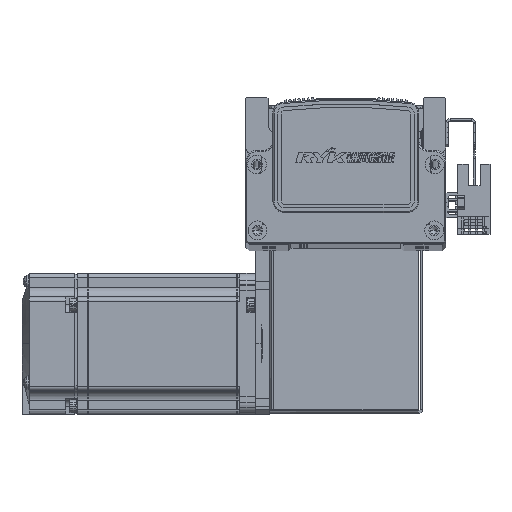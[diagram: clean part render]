
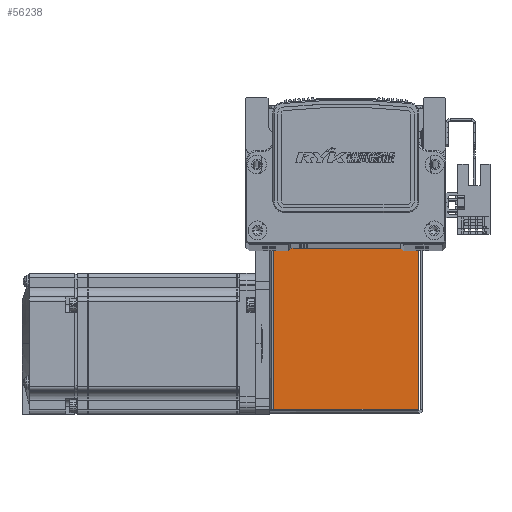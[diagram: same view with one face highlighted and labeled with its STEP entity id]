
A CAD part, top view. The second image highlights one B-rep face of the part: STEP entity #56238.
In plain terms, the highlighted planar face has unit normal (0, 0, 1) as drawn and (0, 0, -1) by its records, which use the part's own axes.
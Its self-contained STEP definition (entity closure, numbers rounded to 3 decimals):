
#3145 = VECTOR ( 'NONE', #59874, 1000. ) ;
#3159 = LINE ( 'NONE', #59873, #3145 ) ;
#8568 = VERTEX_POINT ( 'NONE', #72304 ) ;
#8632 = VERTEX_POINT ( 'NONE', #72424 ) ;
#8651 = VERTEX_POINT ( 'NONE', #72376 ) ;
#8657 = VERTEX_POINT ( 'NONE', #72369 ) ;
#10355 = EDGE_CURVE ( 'NONE', #8632, #8568, #3159, .T. ) ;
#10430 = EDGE_CURVE ( 'NONE', #8651, #8657, #56568, .T. ) ;
#10431 = EDGE_CURVE ( 'NONE', #8651, #8632, #56564, .T. ) ;
#10440 = EDGE_CURVE ( 'NONE', #8568, #8657, #56518, .T. ) ;
#14058 = EDGE_LOOP ( 'NONE', ( #20118, #20127, #20115, #20096 ) ) ;
#20096 = ORIENTED_EDGE ( 'NONE', *, *, #10355, .T. ) ;
#20115 = ORIENTED_EDGE ( 'NONE', *, *, #10431, .T. ) ;
#20118 = ORIENTED_EDGE ( 'NONE', *, *, #10440, .T. ) ;
#20127 = ORIENTED_EDGE ( 'NONE', *, *, #10430, .F. ) ;
#38125 = DIRECTION ( 'NONE',  ( 0., 0., 1. ) ) ;
#38136 = CARTESIAN_POINT ( 'NONE',  ( 0., 0., -35. ) ) ;
#38141 = DIRECTION ( 'NONE',  ( 0., -1., 0. ) ) ;
#38150 = PLANE ( 'NONE',  #68751 ) ;
#52552 = FACE_OUTER_BOUND ( 'NONE', #14058, .T. ) ;
#56238 = ADVANCED_FACE ( 'NONE', ( #52552 ), #38150, .F. ) ;
#56511 = VECTOR ( 'NONE', #63246, 1000. ) ;
#56518 = LINE ( 'NONE', #63197, #56580 ) ;
#56564 = LINE ( 'NONE', #63139, #56511 ) ;
#56568 = LINE ( 'NONE', #63200, #56582 ) ;
#56580 = VECTOR ( 'NONE', #63165, 1000. ) ;
#56582 = VECTOR ( 'NONE', #63213, 1000. ) ;
#59873 = CARTESIAN_POINT ( 'NONE',  ( 0., 72.5, -35. ) ) ;
#59874 = DIRECTION ( 'NONE',  ( 1., 0., 0. ) ) ;
#63139 = CARTESIAN_POINT ( 'NONE',  ( -30.793, 0., -35. ) ) ;
#63165 = DIRECTION ( 'NONE',  ( 0., -1., 0. ) ) ;
#63197 = CARTESIAN_POINT ( 'NONE',  ( 30.763, 72.5, -35. ) ) ;
#63200 = CARTESIAN_POINT ( 'NONE',  ( 32.5, 0.737, -35. ) ) ;
#63213 = DIRECTION ( 'NONE',  ( 1., 0., 0. ) ) ;
#63246 = DIRECTION ( 'NONE',  ( 0., 1., 0. ) ) ;
#68751 = AXIS2_PLACEMENT_3D ( 'NONE', #38136, #38125, #38141 ) ;
#72304 = CARTESIAN_POINT ( 'NONE',  ( 30.763, 72.5, -35. ) ) ;
#72369 = CARTESIAN_POINT ( 'NONE',  ( 30.763, 0.737, -35. ) ) ;
#72376 = CARTESIAN_POINT ( 'NONE',  ( -30.793, 0.737, -35. ) ) ;
#72424 = CARTESIAN_POINT ( 'NONE',  ( -30.793, 72.5, -35. ) ) ;
